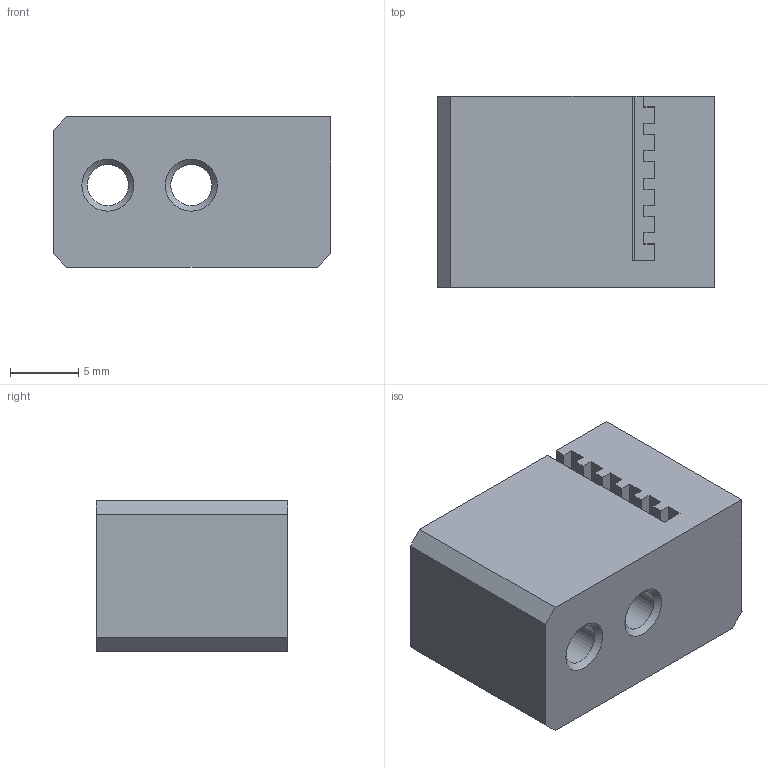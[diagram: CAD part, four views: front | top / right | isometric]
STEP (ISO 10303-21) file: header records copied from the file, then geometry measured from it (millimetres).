
FILE_DESCRIPTION(/* description */ (''),/* implementation_level */ '2;1');
FILE_NAME(/* name */ 'C:/Users/Martin/Documents/icarus-2.1/icarus-2-current-step-files/1-main-files/icarus-belt-tensioner-closed-belts-2.0.step',/* time_stamp */ '2022-08-22T19:33:04+02:00',/* author */ (''),/* organization */ (''),/* preprocessor_version */ 'ST-DEVELOPER v19',/* originating_system */ 'Autodesk Translation Framework v11.7.0.108',/* authorisation */ '');
FILE_SCHEMA (('AUTOMOTIVE_DESIGN { 1 0 10303 214 3 1 1 }'));
Length unit declared in the file: millimetre
Products named in the file (1): icarus
Bounding box: 20.3 x 14 x 11 mm (x, y, z)
Volume: 2756.9 mm3; surface area: 1760 mm2
Topology: 1 solids, 1 shells, 44 faces, 120 edges, 78 vertices
Faces by surface type: plane 36, cone 6, cylinder 2
Full cylindrical faces by diameter (mm): 3 x2
Entity records: 1704 total; most frequent: CARTESIAN_POINT 243, ORIENTED_EDGE 240, DIRECTION 220, EDGE_CURVE 120, LINE 110, VECTOR 110, VERTEX_POINT 78, AXIS2_PLACEMENT_3D 55
